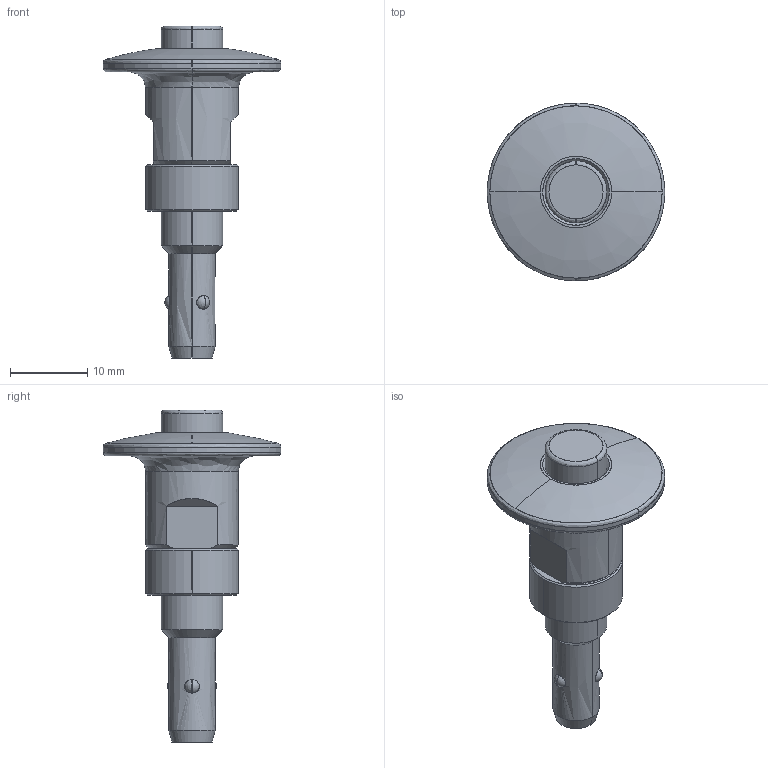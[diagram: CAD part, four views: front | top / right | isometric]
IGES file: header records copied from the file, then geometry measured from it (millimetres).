
Start section: SolidWorks IGES file using analytic representation for surfaces
Global section: file name: X:\11_SW2020-Inv2020\00_全2021-11新製品まで\q\QCBU0608-10-SUS\qcbu0608-10-sus.IGS; native system: SolidWorks 2020; preprocessor: SolidWorks 2020; author: ImaoCorp; date: 211021.171839; units: millimetre
Bounding box: 23 x 23 x 42.95 mm (x, y, z)
Surface area: 2170.5 mm2 (no closed solid volume)
Topology: 0 solids, 0 shells, 71 faces, 969 edges, 963 vertices
Faces by surface type: revolution 49, bspline 22
